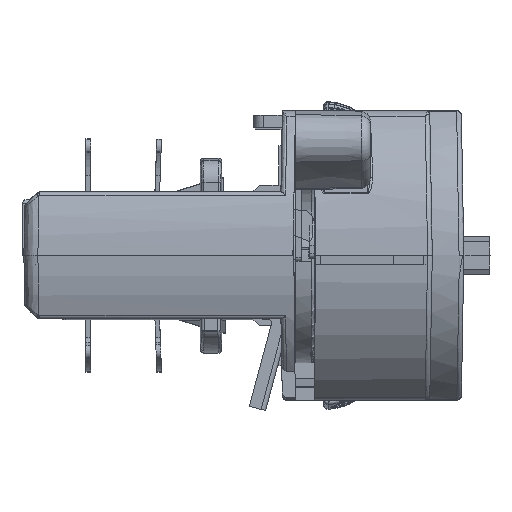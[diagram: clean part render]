
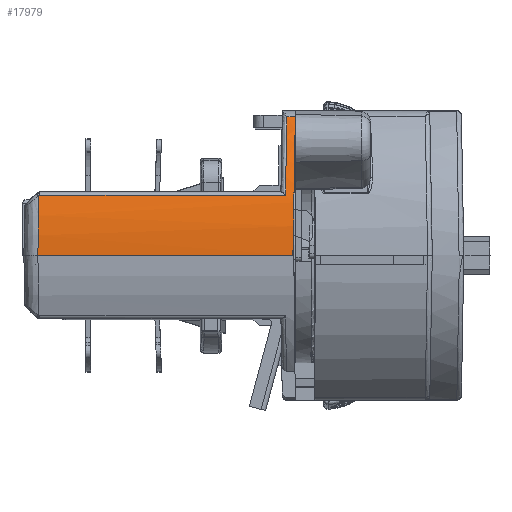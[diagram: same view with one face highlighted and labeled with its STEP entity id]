
A CAD part, left-side view. The second image highlights one B-rep face of the part: STEP entity #17979.
In plain terms, the highlighted cylindrical face has radius 19.016 mm (diameter 38.031 mm), a partial arc.
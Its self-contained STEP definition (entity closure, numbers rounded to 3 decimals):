
#1061 = B_SPLINE_CURVE_WITH_KNOTS ( 'NONE', 3,
 ( #75759, #170876, #43222, #172688 ),
 .UNSPECIFIED., .F., .F.,
 ( 4, 4 ),
 ( 0., 1. ),
 .UNSPECIFIED. ) ;
#2100 = CARTESIAN_POINT ( 'NONE',  ( -33.145, 8.456, 8.225 ) ) ;
#2664 = CARTESIAN_POINT ( 'NONE',  ( -27.888, 9.248, 14.841 ) ) ;
#3150 = CARTESIAN_POINT ( 'NONE',  ( -33.894, 35.728, 6.434 ) ) ;
#5022 = CARTESIAN_POINT ( 'NONE',  ( -30.23, 9.284, 12.732 ) ) ;
#5935 = CARTESIAN_POINT ( 'NONE',  ( -33.881, 9.39, 6.47 ) ) ;
#11121 = ORIENTED_EDGE ( 'NONE', *, *, #155032, .F. ) ;
#13421 = ORIENTED_EDGE ( 'NONE', *, *, #84182, .T. ) ;
#16995 = CARTESIAN_POINT ( 'NONE',  ( -33.153, 8.457, 8.209 ) ) ;
#17940 = CARTESIAN_POINT ( 'NONE',  ( -33.143, 8.456, 8.229 ) ) ;
#17979 = ADVANCED_FACE ( 'NONE', ( #126560 ), #55772, .T. ) ;
#18623 = DIRECTION ( 'NONE',  ( 0., -1., 0. ) ) ;
#18866 = CARTESIAN_POINT ( 'NONE',  ( -32.469, 8.432, 9.632 ) ) ;
#20673 = CARTESIAN_POINT ( 'NONE',  ( -33.403, 8.466, 7.665 ) ) ;
#21860 = CARTESIAN_POINT ( 'NONE',  ( -33.881, 9.39, 6.47 ) ) ;
#29066 = ORIENTED_EDGE ( 'NONE', *, *, #118524, .T. ) ;
#30140 = CARTESIAN_POINT ( 'NONE',  ( -33.881, 35.693, 6.47 ) ) ;
#30480 = LINE ( 'NONE', #33185, #151517 ) ;
#30943 = CARTESIAN_POINT ( 'NONE',  ( -28.891, 8.355, 14.038 ) ) ;
#31824 = CARTESIAN_POINT ( 'NONE',  ( -34.716, 8.54, 3.463 ) ) ;
#33185 = CARTESIAN_POINT ( 'NONE',  ( -27.888, -4., 14.841 ) ) ;
#33645 = CARTESIAN_POINT ( 'NONE',  ( -34.19, 8.503, 5.586 ) ) ;
#34023 = EDGE_CURVE ( 'NONE', #74468, #89272, #72186, .T. ) ;
#39272 = EDGE_CURVE ( 'NONE', #98508, #83786, #1061, .T. ) ;
#40993 = ORIENTED_EDGE ( 'NONE', *, *, #153231, .T. ) ;
#41171 = VECTOR ( 'NONE', #57803, 1000. ) ;
#43222 = CARTESIAN_POINT ( 'NONE',  ( -35.016, 35.866, 2.163 ) ) ;
#45709 = CARTESIAN_POINT ( 'NONE',  ( -27.888, 8.341, 14.841 ) ) ;
#48211 = CARTESIAN_POINT ( 'NONE',  ( -16., -4., 0. ) ) ;
#48406 = CARTESIAN_POINT ( 'NONE',  ( -33.562, 8.472, 7.297 ) ) ;
#55772 = CYLINDRICAL_SURFACE ( 'NONE', #133529, 19.016 ) ;
#57803 = DIRECTION ( 'NONE',  ( 0., -1., 0. ) ) ;
#58751 = CARTESIAN_POINT ( 'NONE',  ( -29.866, 8.371, 13.09 ) ) ;
#59801 = CARTESIAN_POINT ( 'NONE',  ( -33.907, 35.763, 6.399 ) ) ;
#66111 = B_SPLINE_CURVE_WITH_KNOTS ( 'NONE', 3,
 ( #133447, #92252, #5022, #74738, #175329, #5935 ),
 .UNSPECIFIED., .F., .F.,
 ( 4, 2, 4 ),
 ( 0., 0.5, 1. ),
 .UNSPECIFIED. ) ;
#72186 = B_SPLINE_CURVE_WITH_KNOTS ( 'NONE', 3,
 ( #88460, #77295, #119166, #31824, #148074, #33645, #146287, #91165, #48406, #20673, #173343, #90280, #158487, #105204, #147159, #16995, #145377, #2100, #17940, #133280, #18866, #74573, #58751, #30943, #45709 ),
 .UNSPECIFIED., .F., .F.,
 ( 4, 2, 2, 2, 2, 2, 1, 1, 1, 1, 1, 2, 2, 2, 4 ),
 ( 0., 0.125, 0.25, 0.375, 0.438, 0.469, 0.484, 0.492, 0.496, 0.498, 0.499, 0.5, 0.5, 0.75, 1. ),
 .UNSPECIFIED. ) ;
#73788 = CARTESIAN_POINT ( 'NONE',  ( -33.92, 35.797, 6.363 ) ) ;
#74112 = DIRECTION ( 'NONE',  ( 0., -1., 0. ) ) ;
#74468 = VERTEX_POINT ( 'NONE', #163668 ) ;
#74573 = CARTESIAN_POINT ( 'NONE',  ( -31.655, 8.41, 10.887 ) ) ;
#74738 = CARTESIAN_POINT ( 'NONE',  ( -32.302, 9.331, 9.942 ) ) ;
#75584 = ORIENTED_EDGE ( 'NONE', *, *, #78603, .F. ) ;
#75759 = CARTESIAN_POINT ( 'NONE',  ( -33.92, 35.797, 6.363 ) ) ;
#77087 = DIRECTION ( 'NONE',  ( 0., 0., 1. ) ) ;
#77295 = CARTESIAN_POINT ( 'NONE',  ( -35.016, 8.583, 0.943 ) ) ;
#78603 = EDGE_CURVE ( 'NONE', #88356, #181573, #148767, .T. ) ;
#82408 = CARTESIAN_POINT ( 'NONE',  ( -33.92, 35.797, 6.363 ) ) ;
#83786 = VERTEX_POINT ( 'NONE', #107625 ) ;
#84182 = EDGE_CURVE ( 'NONE', #88356, #98508, #142968, .T. ) ;
#88356 = VERTEX_POINT ( 'NONE', #120405 ) ;
#88460 = CARTESIAN_POINT ( 'NONE',  ( -35.016, 8.6, 0. ) ) ;
#89272 = VERTEX_POINT ( 'NONE', #133854 ) ;
#90280 = CARTESIAN_POINT ( 'NONE',  ( -33.271, 8.461, 7.956 ) ) ;
#90620 = ORIENTED_EDGE ( 'NONE', *, *, #34023, .T. ) ;
#91165 = CARTESIAN_POINT ( 'NONE',  ( -33.668, 8.477, 7.036 ) ) ;
#92252 = CARTESIAN_POINT ( 'NONE',  ( -29.071, 9.264, 13.894 ) ) ;
#97794 = LINE ( 'NONE', #154739, #41171 ) ;
#98508 = VERTEX_POINT ( 'NONE', #82408 ) ;
#105204 = CARTESIAN_POINT ( 'NONE',  ( -33.187, 8.458, 8.137 ) ) ;
#106803 = CARTESIAN_POINT ( 'NONE',  ( -33.881, -4., 6.47 ) ) ;
#107625 = CARTESIAN_POINT ( 'NONE',  ( -35.016, 35.9, 0. ) ) ;
#117289 = EDGE_LOOP ( 'NONE', ( #90620, #11121, #40993, #75584, #13421, #122278, #29066 ) ) ;
#118524 = EDGE_CURVE ( 'NONE', #83786, #74468, #97794, .T. ) ;
#119166 = CARTESIAN_POINT ( 'NONE',  ( -34.946, 8.568, 1.827 ) ) ;
#120405 = CARTESIAN_POINT ( 'NONE',  ( -33.881, 35.693, 6.47 ) ) ;
#122278 = ORIENTED_EDGE ( 'NONE', *, *, #39272, .T. ) ;
#124592 = VERTEX_POINT ( 'NONE', #2664 ) ;
#126560 = FACE_OUTER_BOUND ( 'NONE', #117289, .T. ) ;
#133280 = CARTESIAN_POINT ( 'NONE',  ( -33.143, 8.456, 8.229 ) ) ;
#133447 = CARTESIAN_POINT ( 'NONE',  ( -27.888, 9.248, 14.841 ) ) ;
#133529 = AXIS2_PLACEMENT_3D ( 'NONE', #48211, #146950, #77087 ) ;
#133854 = CARTESIAN_POINT ( 'NONE',  ( -27.888, 8.341, 14.841 ) ) ;
#142968 = B_SPLINE_CURVE_WITH_KNOTS ( 'NONE', 3,
 ( #30140, #3150, #59801, #73788 ),
 .UNSPECIFIED., .F., .F.,
 ( 4, 4 ),
 ( 0., 1. ),
 .UNSPECIFIED. ) ;
#145377 = CARTESIAN_POINT ( 'NONE',  ( -33.147, 8.456, 8.22 ) ) ;
#146287 = CARTESIAN_POINT ( 'NONE',  ( -33.985, 8.492, 6.205 ) ) ;
#146950 = DIRECTION ( 'NONE',  ( 0., 1., 0. ) ) ;
#147056 = VECTOR ( 'NONE', #18623, 1000. ) ;
#147159 = CARTESIAN_POINT ( 'NONE',  ( -33.164, 8.457, 8.185 ) ) ;
#148074 = CARTESIAN_POINT ( 'NONE',  ( -34.556, 8.526, 4.215 ) ) ;
#148767 = LINE ( 'NONE', #106803, #147056 ) ;
#151517 = VECTOR ( 'NONE', #74112, 1000. ) ;
#153231 = EDGE_CURVE ( 'NONE', #124592, #181573, #66111, .T. ) ;
#154739 = CARTESIAN_POINT ( 'NONE',  ( -35.016, -4., 0. ) ) ;
#155032 = EDGE_CURVE ( 'NONE', #124592, #89272, #30480, .T. ) ;
#158487 = CARTESIAN_POINT ( 'NONE',  ( -33.232, 8.459, 8.041 ) ) ;
#163668 = CARTESIAN_POINT ( 'NONE',  ( -35.016, 8.6, 0. ) ) ;
#170876 = CARTESIAN_POINT ( 'NONE',  ( -34.643, 35.832, 4.325 ) ) ;
#172688 = CARTESIAN_POINT ( 'NONE',  ( -35.016, 35.9, 0. ) ) ;
#173343 = CARTESIAN_POINT ( 'NONE',  ( -33.35, 8.464, 7.784 ) ) ;
#175329 = CARTESIAN_POINT ( 'NONE',  ( -33.214, 9.359, 8.312 ) ) ;
#181573 = VERTEX_POINT ( 'NONE', #21860 ) ;
